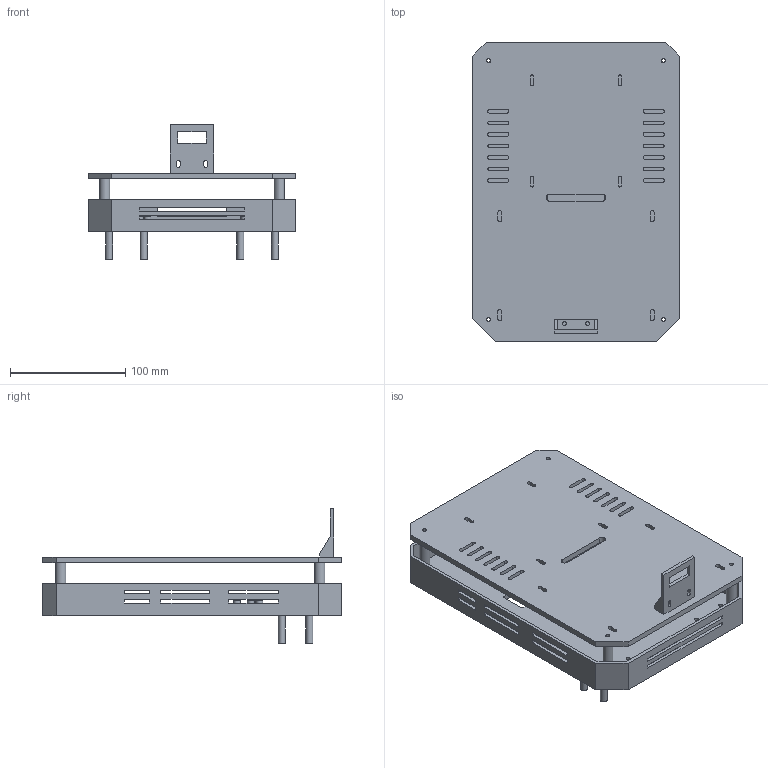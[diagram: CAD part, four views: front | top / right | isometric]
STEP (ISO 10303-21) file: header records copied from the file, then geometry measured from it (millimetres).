
FILE_DESCRIPTION(('FreeCAD Model'),'2;1');
FILE_NAME('Open CASCADE Shape Model','2026-10-15T23:35:35',('FreeCAD'),( 'FreeCAD'),'Open CASCADE STEP processor 7.8','FreeCAD','Unknown');
FILE_SCHEMA(('AUTOMOTIVE_DESIGN { 1 0 10303 214 1 1 1 1 }'));
Length unit declared in the file: millimetre
Products named in the file (1): Open CASCADE STEP translator 7.8 1
Bounding box: 180 x 260 x 116.78 mm (x, y, z)
Volume: 521702.9 mm3; surface area: 253956 mm2
Topology: 21 solids, 21 shells, 353 faces, 922 edges, 614 vertices
Faces by surface type: plane 225, cylinder 128
Full cylindrical faces by diameter (mm): 3.2 x6, 3.3 x12, 3.4 x34, 6 x14, 9 x4
Entity records: 11222 total; most frequent: CARTESIAN_POINT 1890, DIRECTION 1886, ORIENTED_EDGE 1844, EDGE_CURVE 922, LINE 666, VECTOR 666, VERTEX_POINT 614, AXIS2_PLACEMENT_3D 610
